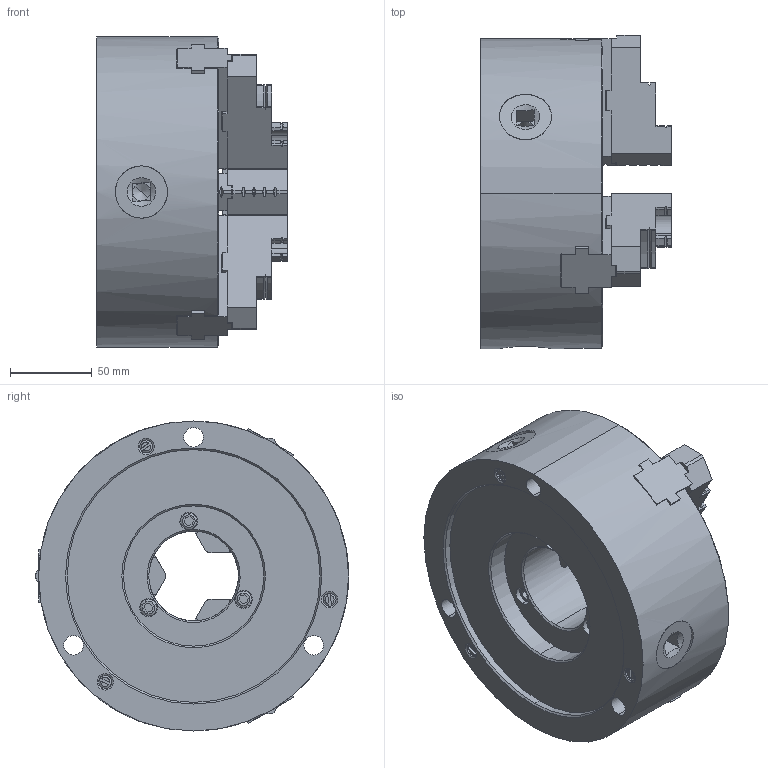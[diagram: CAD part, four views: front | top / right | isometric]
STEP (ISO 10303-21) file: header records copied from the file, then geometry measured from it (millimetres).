
FILE_DESCRIPTION (( 'STEP AP214' ), '1' );
FILE_NAME ('61S263382-1_JN07TN.STEP', '2026-02-27T03:16:55', ( '' ), ( '' ), 'SwSTEP 2.0', 'SolidWorks 2022', '' );
FILE_SCHEMA (( 'AUTOMOTIVE_DESIGN' ));
Length unit declared in the file: millimetre
Products named in the file (5): Part3^61S263382-1_JN07TN; 61S263382-1_JN07TN; 61S313816_BASE JAW; Bアナツキ M10×20; 61S313817_TOPJAW
Assembly tree (13 placements, depth 2):
  61S263382-1_JN07TN
    61S313816_BASE JAW  x3
    61S313817_TOPJAW  x3
    Bアナツキ M10×20  x6
    Part3^61S263382-1_JN07TN
Bounding box: 117 x 192 x 190 mm (x, y, z)
Volume: 1952076.2 mm3; surface area: 226259.2 mm2
Topology: 13 solids, 22 shells, 841 faces, 2201 edges, 1416 vertices
Faces by surface type: plane 387, cylinder 260, cone 168, torus 22, sphere 4
Entity records: 15471 total; most frequent: CARTESIAN_POINT 3878, DIRECTION 2435, ORIENTED_EDGE 2332, EDGE_CURVE 1166, AXIS2_PLACEMENT_3D 916, VERTEX_POINT 759, VECTOR 603, LINE 603
